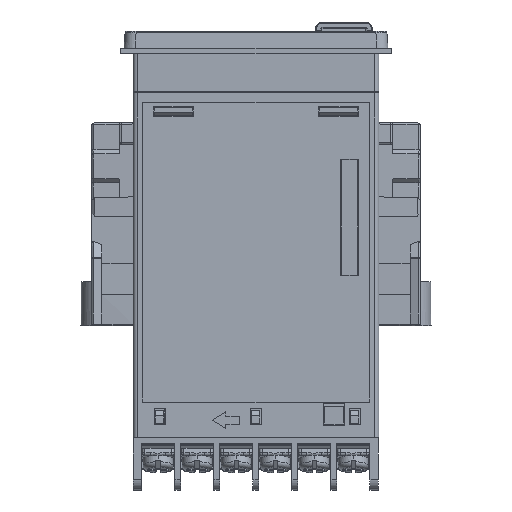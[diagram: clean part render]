
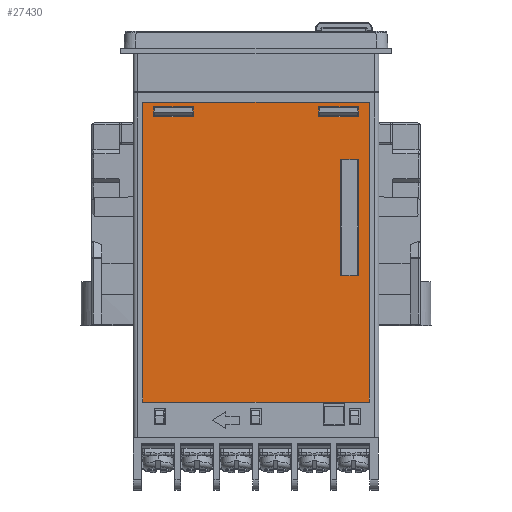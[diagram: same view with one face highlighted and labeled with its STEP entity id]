
A CAD part, left-side view. The second image highlights one B-rep face of the part: STEP entity #27430.
In plain terms, the highlighted planar face has unit normal (-1, 0, 0).
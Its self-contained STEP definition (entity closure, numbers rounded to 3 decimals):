
#540 = ORIENTED_EDGE ( 'NONE', *, *, #147351, .T. ) ;
#923 = DIRECTION ( 'NONE',  ( 0., 0., 1. ) ) ;
#1855 = LINE ( 'NONE', #155919, #38051 ) ;
#7121 = VECTOR ( 'NONE', #46686, 1000. ) ;
#8656 = CARTESIAN_POINT ( 'NONE',  ( -22.125, -15.415, -41.335 ) ) ;
#9581 = FACE_OUTER_BOUND ( 'NONE', #91135, .T. ) ;
#11729 = LINE ( 'NONE', #65951, #57568 ) ;
#12689 = VERTEX_POINT ( 'NONE', #122435 ) ;
#15190 = VERTEX_POINT ( 'NONE', #8656 ) ;
#16551 = DIRECTION ( 'NONE',  ( 0., 0., -1. ) ) ;
#16555 = CARTESIAN_POINT ( 'NONE',  ( -22.125, -18.585, 3.2 ) ) ;
#20634 = VECTOR ( 'NONE', #190581, 1000. ) ;
#24055 = LINE ( 'NONE', #88255, #142057 ) ;
#27430 = ADVANCED_FACE ( 'NONE', ( #86720, #127555, #9581, #168571 ), #77719, .F. ) ;
#28730 = CARTESIAN_POINT ( 'NONE',  ( -22.125, 20.6, -64.3 ) ) ;
#32059 = DIRECTION ( 'NONE',  ( 0., 0., 1. ) ) ;
#33812 = ORIENTED_EDGE ( 'NONE', *, *, #107818, .F. ) ;
#34441 = DIRECTION ( 'NONE',  ( 0., 0., -1. ) ) ;
#37476 = VERTEX_POINT ( 'NONE', #28730 ) ;
#38051 = VECTOR ( 'NONE', #16551, 1000. ) ;
#38318 = VECTOR ( 'NONE', #108207, 1000. ) ;
#40069 = DIRECTION ( 'NONE',  ( 0., 1., 0. ) ) ;
#46686 = DIRECTION ( 'NONE',  ( 0., 1., 0. ) ) ;
#47660 = CARTESIAN_POINT ( 'NONE',  ( -22.125, 18.6, -64.3 ) ) ;
#48911 = ORIENTED_EDGE ( 'NONE', *, *, #161268, .F. ) ;
#51311 = CARTESIAN_POINT ( 'NONE',  ( -22.125, -20.6, -64.3 ) ) ;
#51970 = CARTESIAN_POINT ( 'NONE',  ( -22.125, -18.6, -64.3 ) ) ;
#53849 = LINE ( 'NONE', #16555, #167038 ) ;
#54369 = VERTEX_POINT ( 'NONE', #103546 ) ;
#55403 = LINE ( 'NONE', #86443, #173363 ) ;
#55779 = EDGE_LOOP ( 'NONE', ( #57802, #193933, #540, #89476 ) ) ;
#57194 = EDGE_CURVE ( 'NONE', #12689, #96254, #125124, .T. ) ;
#57268 = DIRECTION ( 'NONE',  ( 0., -1., 0. ) ) ;
#57568 = VECTOR ( 'NONE', #174272, 1000. ) ;
#57802 = ORIENTED_EDGE ( 'NONE', *, *, #188331, .T. ) ;
#59883 = VERTEX_POINT ( 'NONE', #73694 ) ;
#60190 = ORIENTED_EDGE ( 'NONE', *, *, #113704, .F. ) ;
#60456 = VERTEX_POINT ( 'NONE', #141555 ) ;
#61704 = LINE ( 'NONE', #51970, #20634 ) ;
#62120 = EDGE_CURVE ( 'NONE', #151470, #37476, #192331, .T. ) ;
#62711 = CARTESIAN_POINT ( 'NONE',  ( -22.125, 20.6, -9.8 ) ) ;
#65035 = CARTESIAN_POINT ( 'NONE',  ( -22.125, 11.4, -12.4 ) ) ;
#65951 = CARTESIAN_POINT ( 'NONE',  ( -22.125, -11.4, -64.3 ) ) ;
#67976 = EDGE_CURVE ( 'NONE', #81337, #54369, #53849, .T. ) ;
#68495 = VECTOR ( 'NONE', #91841, 1000. ) ;
#68522 = VERTEX_POINT ( 'NONE', #185355 ) ;
#70808 = CARTESIAN_POINT ( 'NONE',  ( -22.125, -20.6, -12.4 ) ) ;
#71453 = EDGE_CURVE ( 'NONE', #37476, #142719, #75236, .T. ) ;
#71509 = VECTOR ( 'NONE', #104525, 1000. ) ;
#72068 = VECTOR ( 'NONE', #194694, 1000. ) ;
#72176 = CARTESIAN_POINT ( 'NONE',  ( -22.125, 20.6, -9.8 ) ) ;
#72292 = ORIENTED_EDGE ( 'NONE', *, *, #62120, .F. ) ;
#73694 = CARTESIAN_POINT ( 'NONE',  ( -22.125, 18.6, -10.6 ) ) ;
#75236 = LINE ( 'NONE', #72176, #84883 ) ;
#76048 = ORIENTED_EDGE ( 'NONE', *, *, #67976, .F. ) ;
#77719 = PLANE ( 'NONE',  #93371 ) ;
#79529 = VERTEX_POINT ( 'NONE', #128992 ) ;
#81063 = VERTEX_POINT ( 'NONE', #189999 ) ;
#81337 = VERTEX_POINT ( 'NONE', #150198 ) ;
#84883 = VECTOR ( 'NONE', #179874, 1000. ) ;
#85927 = ORIENTED_EDGE ( 'NONE', *, *, #186316, .F. ) ;
#85954 = EDGE_CURVE ( 'NONE', #68522, #194302, #143540, .T. ) ;
#86443 = CARTESIAN_POINT ( 'NONE',  ( -22.125, -20.6, -10.6 ) ) ;
#86720 = FACE_BOUND ( 'NONE', #55779, .T. ) ;
#87179 = EDGE_CURVE ( 'NONE', #54369, #60456, #109395, .T. ) ;
#88255 = CARTESIAN_POINT ( 'NONE',  ( -22.125, -20.6, -9.8 ) ) ;
#89476 = ORIENTED_EDGE ( 'NONE', *, *, #124569, .T. ) ;
#91135 = EDGE_LOOP ( 'NONE', ( #72292, #197867, #159903, #164608 ) ) ;
#91841 = DIRECTION ( 'NONE',  ( 0., 1., 0. ) ) ;
#93275 = DIRECTION ( 'NONE',  ( 1., 0., 0. ) ) ;
#93371 = AXIS2_PLACEMENT_3D ( 'NONE', #138259, #93275, #923 ) ;
#96254 = VERTEX_POINT ( 'NONE', #118494 ) ;
#96610 = CARTESIAN_POINT ( 'NONE',  ( -22.125, -20.6, -10.6 ) ) ;
#101378 = CARTESIAN_POINT ( 'NONE',  ( -22.125, 20.6, -64.3 ) ) ;
#101922 = DIRECTION ( 'NONE',  ( 0., -1., 0. ) ) ;
#102698 = VECTOR ( 'NONE', #142943, 1000. ) ;
#103546 = CARTESIAN_POINT ( 'NONE',  ( -22.125, -18.585, -20.165 ) ) ;
#104525 = DIRECTION ( 'NONE',  ( 0., 1., 0. ) ) ;
#106412 = ORIENTED_EDGE ( 'NONE', *, *, #85954, .T. ) ;
#107762 = ORIENTED_EDGE ( 'NONE', *, *, #57194, .T. ) ;
#107775 = EDGE_LOOP ( 'NONE', ( #33812, #107762, #48911, #106412 ) ) ;
#107818 = EDGE_CURVE ( 'NONE', #12689, #194302, #61704, .T. ) ;
#108207 = DIRECTION ( 'NONE',  ( 0., 0., 1. ) ) ;
#109395 = LINE ( 'NONE', #168472, #68495 ) ;
#113704 = EDGE_CURVE ( 'NONE', #60456, #15190, #164854, .T. ) ;
#115376 = VERTEX_POINT ( 'NONE', #140231 ) ;
#117280 = CARTESIAN_POINT ( 'NONE',  ( -22.125, -20.6, -64.3 ) ) ;
#118494 = CARTESIAN_POINT ( 'NONE',  ( -22.125, -11.4, -12.4 ) ) ;
#122435 = CARTESIAN_POINT ( 'NONE',  ( -22.125, -18.6, -12.4 ) ) ;
#124569 = EDGE_CURVE ( 'NONE', #59883, #115376, #55403, .T. ) ;
#125124 = LINE ( 'NONE', #138770, #7121 ) ;
#126610 = CARTESIAN_POINT ( 'NONE',  ( -22.125, -15.415, 3.2 ) ) ;
#127555 = FACE_BOUND ( 'NONE', #155483, .T. ) ;
#128992 = CARTESIAN_POINT ( 'NONE',  ( -22.125, -20.6, -9.8 ) ) ;
#138259 = CARTESIAN_POINT ( 'NONE',  ( -22.125, -20.6, -64.3 ) ) ;
#138390 = VERTEX_POINT ( 'NONE', #65035 ) ;
#138770 = CARTESIAN_POINT ( 'NONE',  ( -22.125, -20.6, -12.4 ) ) ;
#140231 = CARTESIAN_POINT ( 'NONE',  ( -22.125, 11.4, -10.6 ) ) ;
#141555 = CARTESIAN_POINT ( 'NONE',  ( -22.125, -15.415, -20.165 ) ) ;
#142057 = VECTOR ( 'NONE', #57268, 1000. ) ;
#142719 = VERTEX_POINT ( 'NONE', #62711 ) ;
#142943 = DIRECTION ( 'NONE',  ( 0., -1., 0. ) ) ;
#143540 = LINE ( 'NONE', #96610, #102698 ) ;
#147351 = EDGE_CURVE ( 'NONE', #81063, #59883, #197327, .T. ) ;
#150198 = CARTESIAN_POINT ( 'NONE',  ( -22.125, -18.585, -41.335 ) ) ;
#151470 = VERTEX_POINT ( 'NONE', #51311 ) ;
#151768 = ORIENTED_EDGE ( 'NONE', *, *, #87179, .F. ) ;
#151984 = VECTOR ( 'NONE', #179794, 1000. ) ;
#155483 = EDGE_LOOP ( 'NONE', ( #76048, #85927, #60190, #151768 ) ) ;
#155919 = CARTESIAN_POINT ( 'NONE',  ( -22.125, 11.4, -64.3 ) ) ;
#159903 = ORIENTED_EDGE ( 'NONE', *, *, #198232, .F. ) ;
#161268 = EDGE_CURVE ( 'NONE', #68522, #96254, #11729, .T. ) ;
#164301 = CARTESIAN_POINT ( 'NONE',  ( -22.125, 0., -41.335 ) ) ;
#164608 = ORIENTED_EDGE ( 'NONE', *, *, #71453, .F. ) ;
#164854 = LINE ( 'NONE', #126610, #169629 ) ;
#167038 = VECTOR ( 'NONE', #32059, 1000. ) ;
#168472 = CARTESIAN_POINT ( 'NONE',  ( -22.125, 0., -20.165 ) ) ;
#168571 = FACE_BOUND ( 'NONE', #107775, .T. ) ;
#169629 = VECTOR ( 'NONE', #34441, 1000. ) ;
#173363 = VECTOR ( 'NONE', #101922, 1000. ) ;
#174272 = DIRECTION ( 'NONE',  ( 0., 0., -1. ) ) ;
#179794 = DIRECTION ( 'NONE',  ( 0., -1., 0. ) ) ;
#179874 = DIRECTION ( 'NONE',  ( 0., 0., 1. ) ) ;
#183895 = CARTESIAN_POINT ( 'NONE',  ( -22.125, -18.6, -10.6 ) ) ;
#185355 = CARTESIAN_POINT ( 'NONE',  ( -22.125, -11.4, -10.6 ) ) ;
#186316 = EDGE_CURVE ( 'NONE', #15190, #81337, #190225, .T. ) ;
#187493 = VECTOR ( 'NONE', #40069, 1000. ) ;
#187570 = EDGE_CURVE ( 'NONE', #79529, #151470, #199711, .T. ) ;
#188331 = EDGE_CURVE ( 'NONE', #115376, #138390, #1855, .T. ) ;
#189161 = EDGE_CURVE ( 'NONE', #138390, #81063, #194332, .T. ) ;
#189999 = CARTESIAN_POINT ( 'NONE',  ( -22.125, 18.6, -12.4 ) ) ;
#190225 = LINE ( 'NONE', #164301, #151984 ) ;
#190581 = DIRECTION ( 'NONE',  ( 0., 0., 1. ) ) ;
#192331 = LINE ( 'NONE', #101378, #187493 ) ;
#193933 = ORIENTED_EDGE ( 'NONE', *, *, #189161, .T. ) ;
#194302 = VERTEX_POINT ( 'NONE', #183895 ) ;
#194332 = LINE ( 'NONE', #70808, #71509 ) ;
#194694 = DIRECTION ( 'NONE',  ( 0., 0., -1. ) ) ;
#197327 = LINE ( 'NONE', #47660, #38318 ) ;
#197867 = ORIENTED_EDGE ( 'NONE', *, *, #187570, .F. ) ;
#198232 = EDGE_CURVE ( 'NONE', #142719, #79529, #24055, .T. ) ;
#199711 = LINE ( 'NONE', #117280, #72068 ) ;
